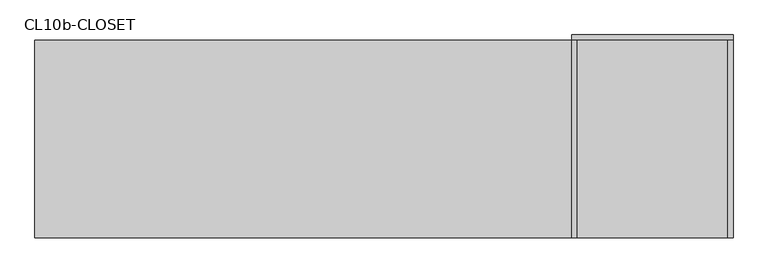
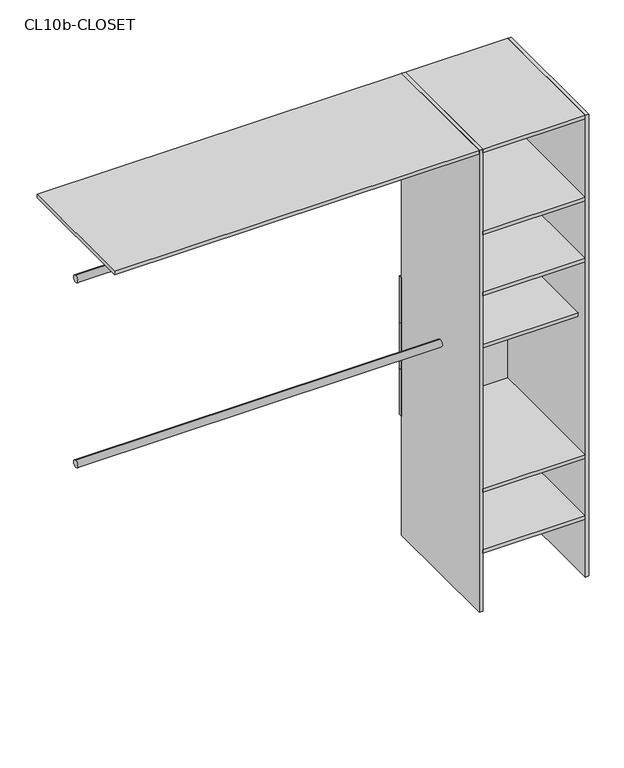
"""IFC4 building model written with IfcOpenShell, lengths in millimetres: furniture geometry, Closet 1estantes-1tubos_sin laterales : CL10b-CLOSET."""

import ifcopenshell
import ifcopenshell.guid

model = None  # the IFC model being written
_history = None  # IfcOwnerHistory: only IFC2X3 demands one
_inside = {}  # id of a spatial element -> (the spatial element, [elements in it])
_under = {}  # id of a project, library or spatial element -> (it, [spatial elements below it])
_declared = {}  # id of a project -> (the project, [libraries it declares])
_typed = {}  # id of a type object -> (the type object, [elements of that type])
_made_of = {}  # id of a material, layer set ... -> (it, [elements and type objects made of it])


def new_model(schema):
    """Start an empty IFC model of exactly this schema.

    Asked for "IFC4X3", IfcOpenShell would pick the latest addendum, in which some entities
    have other attributes; the version numbers below select the first issue.
    IFC2X3 requires an IfcOwnerHistory on every rooted entity: one is made here for all.
    """
    global model, _history
    if schema == "IFC4X3":
        model = ifcopenshell.file(schema_version=(4, 3, 0, 0))
    else:
        model = ifcopenshell.file(schema=schema)
    _inside.clear()
    _under.clear()
    _declared.clear()
    _typed.clear()
    _made_of.clear()
    _history = None
    if model.schema == "IFC2X3":
        org = make("IfcOrganization", Name="unknown")
        user = make(
            "IfcPersonAndOrganization",
            ThePerson=make("IfcPerson", FamilyName="unknown"),
            TheOrganization=org,
        )
        app = make(
            "IfcApplication",
            ApplicationDeveloper=org,
            Version="unknown",
            ApplicationFullName="unknown",
            ApplicationIdentifier="unknown",
        )
        _history = make(
            "IfcOwnerHistory",
            OwningUser=user,
            OwningApplication=app,
            ChangeAction="ADDED",
            CreationDate=0,
        )
    return model


def make(cls, **values):
    """One entity of the class cls with the attributes given. An attribute that is None is left unset."""
    return model.create_entity(
        cls, **{name: value for name, value in values.items() if value is not None}
    )


def rooted(cls, **values):
    """An entity with a GlobalId (a new one), such as an element, a storey or a relation."""
    return make(cls, GlobalId=ifcopenshell.guid.new(), OwnerHistory=_history, **values)


def si_unit(unit_type, name, prefix=None):
    """IfcSIUnit, for example si_unit("LENGTHUNIT", "METRE", prefix="MILLI")."""
    return make("IfcSIUnit", UnitType=unit_type, Prefix=prefix, Name=name)


def assignment(units):
    """IfcUnitAssignment: the units of a project."""
    return None if units is None else make("IfcUnitAssignment", Units=units)


def point(xyz):
    """IfcCartesianPoint."""
    return None if xyz is None else make("IfcCartesianPoint", Coordinates=xyz)


def direction(xyz):
    """IfcDirection."""
    return None if xyz is None else make("IfcDirection", DirectionRatios=xyz)


def frame(location, z_axis=None, x_axis=None):
    """IfcAxis2Placement3D, a coordinate frame: its origin and axes. An axis left out is left unset."""
    return make(
        "IfcAxis2Placement3D",
        Location=point(location),
        Axis=direction(z_axis),
        RefDirection=direction(x_axis),
    )


def frame_2d(location, x_axis=None):
    """IfcAxis2Placement2D, a coordinate frame in the plane: its origin and x axis."""
    return make(
        "IfcAxis2Placement2D", Location=point(location), RefDirection=direction(x_axis)
    )


def origin():
    """The frame at (0, 0, 0) with its axes left unset."""
    return frame((0.0, 0.0, 0.0))


def origin_with_axes():
    """The frame at (0, 0, 0) with the z axis (0, 0, 1) and the x axis (1, 0, 0) written out."""
    return frame((0.0, 0.0, 0.0), z_axis=(0.0, 0.0, 1.0), x_axis=(1.0, 0.0, 0.0))


def place(relative_to, where):
    """IfcLocalPlacement: puts the frame where relative to a parent placement (None: the world)."""
    return make(
        "IfcLocalPlacement", PlacementRelTo=relative_to, RelativePlacement=where
    )


def context(
    kind, dimensions, precision=None, world=None, true_north=None, identifier=None
):
    """IfcGeometricRepresentationContext, for example the 3D "Model" context."""
    return make(
        "IfcGeometricRepresentationContext",
        ContextIdentifier=identifier,
        ContextType=kind,
        CoordinateSpaceDimension=dimensions,
        Precision=precision,
        WorldCoordinateSystem=world,
        TrueNorth=true_north,
    )


def project(units=None, contexts=None):
    """IfcProject with its units and contexts."""
    return rooted(
        "IfcProject",
        Name="project",
        RepresentationContexts=contexts,
        UnitsInContext=assignment(units),
    )


def spatial(cls, under=None, at=None, **own):
    """A site, building, storey or space (cls), placed at a placement, below another one or the project."""
    s = rooted(cls, ObjectPlacement=at, **own)
    if under is not None:
        _under.setdefault(under.id(), (under, []))[1].append(s)
    return s


def polyline(points):
    """IfcPolyline through the points."""
    return make("IfcPolyline", Points=[point(p) for p in points])


def circle_curve(where, radius):
    """IfcCircle in the frame where."""
    return make("IfcCircle", Position=where, Radius=radius)


def trimmed(basis, trim1, trim2, sense, master):
    """IfcTrimmedCurve: the piece of a basis curve between two trims."""
    return make(
        "IfcTrimmedCurve",
        BasisCurve=basis,
        Trim1=trim1,
        Trim2=trim2,
        SenseAgreement=sense,
        MasterRepresentation=master,
    )


def segment(curve, same_sense, transition):
    """IfcCompositeCurveSegment."""
    return make(
        "IfcCompositeCurveSegment",
        Transition=transition,
        SameSense=same_sense,
        ParentCurve=curve,
    )


def composite_curve(segments, self_intersect=None):
    """IfcCompositeCurve: segments joined end to end."""
    return make("IfcCompositeCurve", Segments=segments, SelfIntersect=self_intersect)


def outline(outer, holes=None, kind="AREA"):
    """IfcArbitraryClosedProfileDef: a profile drawn as a closed curve; with holes, ...WithVoids."""
    if holes is None:
        return make("IfcArbitraryClosedProfileDef", ProfileType=kind, OuterCurve=outer)
    return make(
        "IfcArbitraryProfileDefWithVoids",
        ProfileType=kind,
        OuterCurve=outer,
        InnerCurves=holes,
    )


def extrude(swept, where, along, depth):
    """IfcExtrudedAreaSolid: the profile swept, set in the frame where, extruded along a direction by depth."""
    return make(
        "IfcExtrudedAreaSolid",
        SweptArea=swept,
        Position=where,
        ExtrudedDirection=direction(along),
        Depth=depth,
    )


def shape(context_of_items, identifier, shape_type, items):
    """IfcShapeRepresentation: the items that make up one representation, for example the "Body"."""
    return make(
        "IfcShapeRepresentation",
        ContextOfItems=context_of_items,
        RepresentationIdentifier=identifier,
        RepresentationType=shape_type,
        Items=items,
    )


def source(mapping_origin, context_of_items, identifier, shape_type, items):
    """IfcRepresentationMap: a shape defined once, which mapped items show again and again."""
    return make(
        "IfcRepresentationMap",
        MappingOrigin=mapping_origin,
        MappedRepresentation=shape(context_of_items, identifier, shape_type, items),
    )


def transform(
    local_origin,
    x_axis=None,
    y_axis=None,
    z_axis=None,
    scale=None,
    scale2=None,
    scale3=None,
    uniform=True,
):
    """IfcCartesianTransformationOperator3D, or its non-uniform kind. x_axis, y_axis, z_axis: its Axis1, 2, 3."""
    if uniform:
        return make(
            "IfcCartesianTransformationOperator3D",
            Axis1=direction(x_axis),
            Axis2=direction(y_axis),
            LocalOrigin=point(local_origin),
            Scale=scale,
            Axis3=direction(z_axis),
        )
    return make(
        "IfcCartesianTransformationOperator3DnonUniform",
        Axis1=direction(x_axis),
        Axis2=direction(y_axis),
        LocalOrigin=point(local_origin),
        Scale=scale,
        Axis3=direction(z_axis),
        Scale2=scale2,
        Scale3=scale3,
    )


def mapped(mapping_source, mapping_target):
    """IfcMappedItem: shows the shape of a source again, moved by a transform."""
    return make(
        "IfcMappedItem", MappingSource=mapping_source, MappingTarget=mapping_target
    )


def made_of(thing, what):
    """Note that an element or type object is made of a material, layer set ...; save() writes the relation."""
    if what is not None:
        _made_of.setdefault(what.id(), (what, []))[1].append(thing)
    return thing


def element(
    cls,
    number,
    at=None,
    inside=None,
    cuts=None,
    type_object=None,
    material=None,
    context=None,
    identifier="Body",
    shape_type=None,
    held_by="IfcProductDefinitionShape",
    body=None,
    shapes=None,
    **own,
):
    """One element of the class cls, such as IfcWall. Its Tag is "e" and its number.

    at: its placement. inside: the storey or other place that contains it. cuts: it is an
    opening in that element (IfcRelVoidsElement). A single representation is given by context,
    identifier, shape_type and body (its items); several are given by shapes. held_by: the class
    of the entity that holds the representations. save() writes the other relations.
    """
    e = rooted(cls, Tag="e%d" % number, ObjectPlacement=at, **own)
    if body is not None:
        shapes = [shape(context, identifier, shape_type, body)]
    if shapes is not None:
        e.Representation = make(held_by, Representations=shapes)
    if inside is not None:
        _inside.setdefault(inside.id(), (inside, []))[1].append(e)
    if cuts is not None:
        rooted(
            "IfcRelVoidsElement", RelatingBuildingElement=cuts, RelatedOpeningElement=e
        )
    if type_object is not None:
        _typed.setdefault(type_object.id(), (type_object, []))[1].append(e)
    return made_of(e, material)


def aggregate(whole, parts):
    """IfcRelAggregates: a whole, such as a stair, and the parts it consists of."""
    return rooted("IfcRelAggregates", RelatingObject=whole, RelatedObjects=parts)


def save(model, path):
    """Write the relations noted so far, then the file.

    IfcRelAggregates (storeys below a building ...), IfcRelContainedInSpatialStructure (elements
    in a storey), IfcRelDefinesByType, IfcRelAssociatesMaterial and IfcRelDeclares: one each for
    every whole, place, type object, material and project.
    """
    for whole, parts in _under.values():
        aggregate(whole, parts)
    for where, things in _inside.values():
        rooted(
            "IfcRelContainedInSpatialStructure",
            RelatedElements=things,
            RelatingStructure=where,
        )
    for kind, things in _typed.values():
        rooted("IfcRelDefinesByType", RelatedObjects=things, RelatingType=kind)
    for what, things in _made_of.values():
        rooted("IfcRelAssociatesMaterial", RelatedObjects=things, RelatingMaterial=what)
    for by, libraries in _declared.values():
        rooted("IfcRelDeclares", RelatingContext=by, RelatedDefinitions=libraries)
    model.write(path)


def cl10b_closet_7e38ed4d(model_context):
    return source(origin(), model_context, "Body", "SweptSolid", [
        extrude(outline(polyline([(225.0, -100.0), (225.0, -650.0), (210.0, -650.0), (210.0, -100.0), (225.0, -100.0)])), origin_with_axes(), (0.0, 0.0, 1.0), 2000.0),
        extrude(outline(polyline([(-210.0, -100.0), (-210.0, -650.0), (-225.0, -650.0), (-225.0, -100.0), (-210.0, -100.0)])), origin_with_axes(), (0.0, 0.0, 1.0), 2000.0),
        extrude(outline(polyline([(225.0, -100.0), (-225.0, -100.0), (-225.0, -85.0), (225.0, -85.0), (225.0, -100.0)])), frame((0.0, 0.0, 915.0), z_axis=(0.0, 0.0, 1.0), x_axis=(1.0, 0.0, 0.0)), (0.0, 0.0, 1.0), 200.0),
        extrude(outline(polyline([(225.0, -100.0), (-225.0, -100.0), (-225.0, -85.0), (225.0, -85.0), (225.0, -100.0)])), frame((0.0, 0.0, 715.0), z_axis=(0.0, 0.0, 1.0), x_axis=(1.0, 0.0, 0.0)), (0.0, 0.0, 1.0), 200.0),
        extrude(outline(polyline([(225.0, -100.0), (-225.0, -100.0), (-225.0, -85.0), (225.0, -85.0), (225.0, -100.0)])), frame((0.0, 0.0, 515.0), z_axis=(0.0, 0.0, 1.0), x_axis=(1.0, 0.0, 0.0)), (0.0, 0.0, 1.0), 200.0),
        extrude(outline(polyline([(210.0, -100.0), (210.0, -600.0), (-210.0, -600.0), (-210.0, -100.0), (210.0, -100.0)])), frame((0.0, 0.0, 1100.0), z_axis=(0.0, 0.0, 1.0), x_axis=(1.0, 0.0, 0.0)), (0.0, 0.0, 1.0), 15.0),
        extrude(outline(composite_curve([segment(trimmed(circle_curve(frame_2d((-375.0, 1000.0)), 15.0), [point((-375.0, 1015.0))], [point((-375.0, 985.0))], False, "CARTESIAN"), True, "CONTINUOUS"), segment(trimmed(circle_curve(frame_2d((-375.0, 1000.0)), 15.0), [point((-375.0, 985.0))], [point((-375.0, 1015.0))], False, "CARTESIAN"), True, "CONTINUOUS")], self_intersect=False)), frame((-1720.0, 0.0, 0.0), z_axis=(1.0, 0.0, 0.0), x_axis=(0.0, 1.0, 0.0)), (0.0, 0.0, 1.0), 1495.0),
        extrude(outline(composite_curve([segment(trimmed(circle_curve(frame_2d((-375.0, 1800.0)), 15.0), [point((-375.0, 1815.0))], [point((-375.0, 1785.0))], False, "CARTESIAN"), True, "CONTINUOUS"), segment(trimmed(circle_curve(frame_2d((-375.0, 1800.0)), 15.0), [point((-375.0, 1785.0))], [point((-375.0, 1815.0))], False, "CARTESIAN"), True, "CONTINUOUS")], self_intersect=False)), frame((-1720.0, 0.0, 0.0), z_axis=(1.0, 0.0, 0.0), x_axis=(0.0, 1.0, 0.0)), (0.0, 0.0, 1.0), 1495.0),
        extrude(outline(polyline([(210.0, -100.0), (210.0, -650.0), (-210.0, -650.0), (-210.0, -100.0), (210.0, -100.0)])), frame((0.0, 0.0, 250.0), z_axis=(0.0, 0.0, 1.0), x_axis=(1.0, 0.0, 0.0)), (0.0, 0.0, 1.0), 15.0),
        extrude(outline(polyline([(210.0, -100.0), (210.0, -650.0), (-210.0, -650.0), (-210.0, -100.0), (210.0, -100.0)])), frame((0.0, 0.0, 515.0), z_axis=(0.0, 0.0, 1.0), x_axis=(1.0, 0.0, 0.0)), (0.0, 0.0, 1.0), 15.0),
        extrude(outline(polyline([(210.0, -100.0), (210.0, -650.0), (-210.0, -650.0), (-210.0, -100.0), (210.0, -100.0)])), frame((0.0, 0.0, 1365.0), z_axis=(0.0, 0.0, 1.0), x_axis=(1.0, 0.0, 0.0)), (0.0, 0.0, 1.0), 15.0),
        extrude(outline(polyline([(210.0, -100.0), (210.0, -650.0), (-210.0, -650.0), (-210.0, -100.0), (210.0, -100.0)])), frame((0.0, 0.0, 1630.0), z_axis=(0.0, 0.0, 1.0), x_axis=(1.0, 0.0, 0.0)), (0.0, 0.0, 1.0), 15.0),
        extrude(outline(polyline([(-210.0, -100.0), (-210.0, -650.0), (-1720.0, -650.0), (-1720.0, -100.0), (-210.0, -100.0)])), frame((0.0, 0.0, 1985.0), z_axis=(0.0, 0.0, 1.0), x_axis=(1.0, 0.0, 0.0)), (0.0, 0.0, 1.0), 15.0),
        extrude(outline(polyline([(210.0, -100.0), (210.0, -650.0), (-210.0, -650.0), (-210.0, -100.0), (210.0, -100.0)])), frame((0.0, 0.0, 1985.0), z_axis=(0.0, 0.0, 1.0), x_axis=(1.0, 0.0, 0.0)), (0.0, 0.0, 1.0), 15.0),
    ])


if __name__ == "__main__":
    model = new_model("IFC4")
    model_context = context("Model", 3, world=origin())
    ifc_project = project(units=[si_unit("LENGTHUNIT", "METRE", prefix="MILLI")], contexts=[model_context])
    site = spatial("IfcSite", under=ifc_project)
    building = spatial("IfcBuilding", under=site)
    placement = place(None, origin())
    cl10b_closet_shape = cl10b_closet_7e38ed4d(model_context)
    element("IfcFurniture", 1, ObjectType="Closet 1estantes-1tubos_sin laterales : CL10b-CLOSET", at=placement, inside=building, context=model_context, shape_type="MappedRepresentation", body=[
        mapped(cl10b_closet_shape, transform((0.0, 0.0, 0.0), x_axis=(1.0, 0.0, 0.0), y_axis=(0.0, 1.0, 0.0), z_axis=(0.0, 0.0, 1.0))),
    ])
    save(model, "model.ifc")
